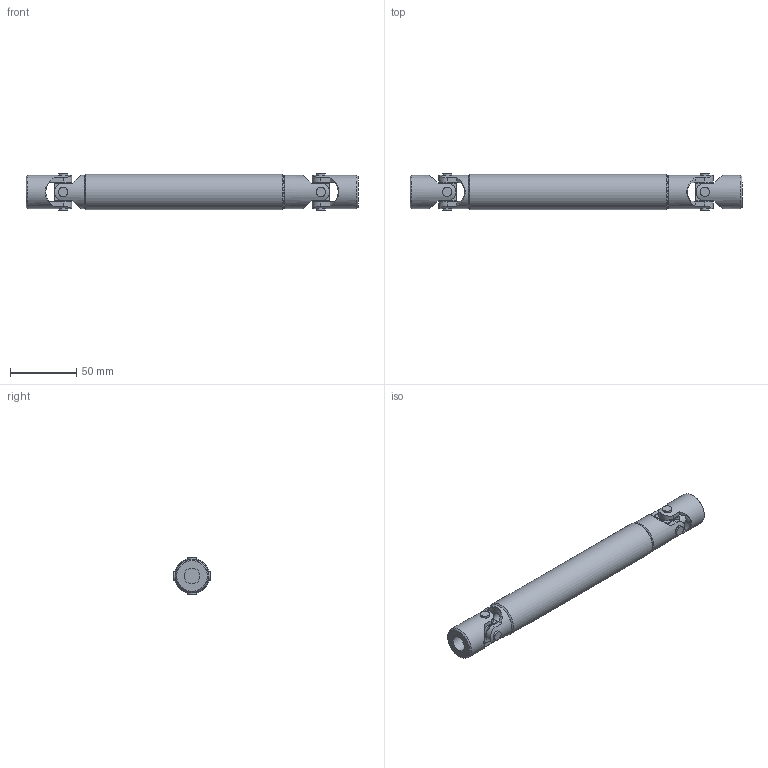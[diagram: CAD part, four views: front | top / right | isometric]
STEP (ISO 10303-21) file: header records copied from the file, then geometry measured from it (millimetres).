
FILE_DESCRIPTION(/* description */ (''),/* implementation_level */ '2;1');
FILE_NAME(/* name */ '\\SRV2016\societa\Stefano\Disegni 3D\0Catalogo 3D\15Trasmissioni speciali XA\Ø25_!04XA\04XA.stp',/* time_stamp */ '2023-05-16T17:58:20+02:00',/* author */ ('acquisti'),/* organization */ (''),/* preprocessor_version */ 'ST-DEVELOPER v15.6',/* originating_system */ 'Autodesk Inventor 2015',/* authorisation */ '');
FILE_SCHEMA (('AUTOMOTIVE_DESIGN { 1 0 10303 214 3 1 1 }'));
Length unit declared in the file: millimetre
Products named in the file (5): 04X LAI; 04X LCI; 04X MOS; 04X SFE; Ø25_!04XA
Assembly tree (6 placements, depth 2):
  Ø25_!04XA
    04X LAI
    04X LCI
    04X MOS  x2
    04X SFE  x2
Bounding box: 250 x 27.5 x 27.5 mm (x, y, z)
Volume: 98332.8 mm3; surface area: 46052.3 mm2
Topology: 6 solids, 6 shells, 182 faces, 469 edges, 315 vertices
Faces by surface type: plane 92, cylinder 61, cone 25, torus 4
Full cylindrical faces by diameter (mm): 7 x8, 12 x3, 12.5 x8, 13 x4, 21 x1, 25 x4, 26.5 x1
Entity records: 4845 total; most frequent: CARTESIAN_POINT 1429, DIRECTION 684, ORIENTED_EDGE 670, EDGE_CURVE 335, AXIS2_PLACEMENT_3D 270, VERTEX_POINT 241, EDGE_LOOP 188, LINE 144
